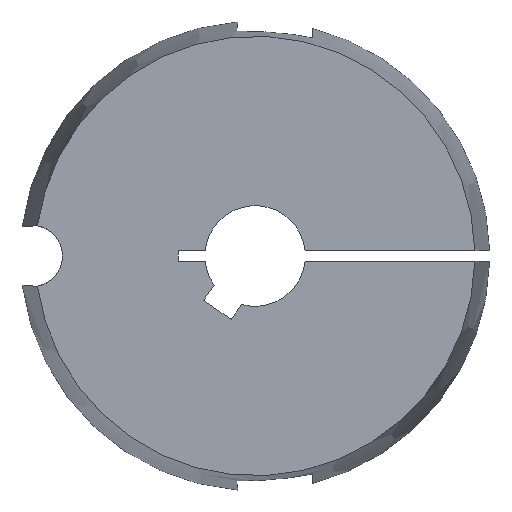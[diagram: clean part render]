
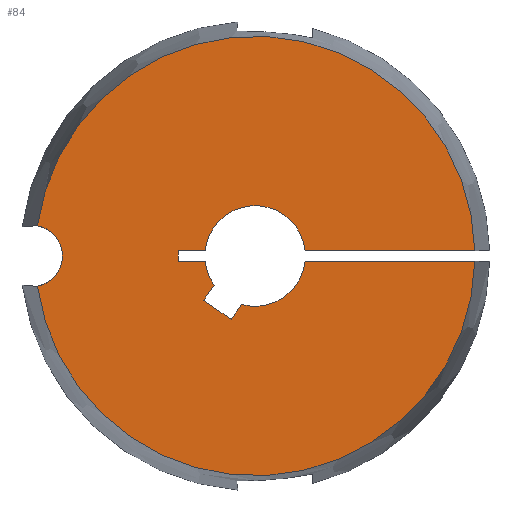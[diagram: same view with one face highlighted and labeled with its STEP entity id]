
A CAD part, left-side view. The second image highlights one B-rep face of the part: STEP entity #84.
In plain terms, the highlighted planar face has unit normal (-1, 0, 0).
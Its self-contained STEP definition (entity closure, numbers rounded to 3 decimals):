
#84 = ADVANCED_FACE( '', ( #114 ), #115, .F. );
#114 = FACE_OUTER_BOUND( '', #154, .T. );
#115 = PLANE( '', #155 );
#154 = EDGE_LOOP( '', ( #251, #252, #253, #254, #255, #256, #257, #258, #259, #260, #261, #262, #263, #264 ) );
#155 = AXIS2_PLACEMENT_3D( '', #265, #266, #267 );
#251 = ORIENTED_EDGE( '', *, *, #349, .T. );
#252 = ORIENTED_EDGE( '', *, *, #381, .F. );
#253 = ORIENTED_EDGE( '', *, *, #352, .T. );
#254 = ORIENTED_EDGE( '', *, *, #365, .T. );
#255 = ORIENTED_EDGE( '', *, *, #363, .T. );
#256 = ORIENTED_EDGE( '', *, *, #360, .T. );
#257 = ORIENTED_EDGE( '', *, *, #369, .T. );
#258 = ORIENTED_EDGE( '', *, *, #382, .T. );
#259 = ORIENTED_EDGE( '', *, *, #383, .T. );
#260 = ORIENTED_EDGE( '', *, *, #384, .T. );
#261 = ORIENTED_EDGE( '', *, *, #385, .T. );
#262 = ORIENTED_EDGE( '', *, *, #386, .T. );
#263 = ORIENTED_EDGE( '', *, *, #354, .T. );
#264 = ORIENTED_EDGE( '', *, *, #387, .F. );
#265 = CARTESIAN_POINT( '', ( -31.8, 0., 0. ) );
#266 = DIRECTION( '', ( 1., 0., 0. ) );
#267 = DIRECTION( '', ( 0., 0., -1. ) );
#349 = EDGE_CURVE( '', #402, #407, #409, .T. );
#352 = EDGE_CURVE( '', #415, #413, #416, .T. );
#354 = EDGE_CURVE( '', #418, #419, #420, .T. );
#360 = EDGE_CURVE( '', #431, #429, #432, .T. );
#363 = EDGE_CURVE( '', #436, #431, #437, .T. );
#365 = EDGE_CURVE( '', #413, #436, #439, .T. );
#369 = EDGE_CURVE( '', #429, #443, #445, .T. );
#381 = EDGE_CURVE( '', #415, #407, #465, .T. );
#382 = EDGE_CURVE( '', #443, #466, #467, .T. );
#383 = EDGE_CURVE( '', #466, #468, #469, .T. );
#384 = EDGE_CURVE( '', #468, #470, #471, .T. );
#385 = EDGE_CURVE( '', #470, #472, #473, .T. );
#386 = EDGE_CURVE( '', #472, #418, #474, .T. );
#387 = EDGE_CURVE( '', #402, #419, #475, .T. );
#402 = VERTEX_POINT( '', #521 );
#407 = VERTEX_POINT( '', #531 );
#409 = CIRCLE( '', #538, 4.6 );
#413 = VERTEX_POINT( '', #543 );
#415 = VERTEX_POINT( '', #546 );
#416 = LINE( '', #547, #548 );
#418 = VERTEX_POINT( '', #556 );
#419 = VERTEX_POINT( '', #557 );
#420 = LINE( '', #558, #559 );
#429 = VERTEX_POINT( '', #577 );
#431 = VERTEX_POINT( '', #580 );
#432 = LINE( '', #581, #582 );
#436 = VERTEX_POINT( '', #588 );
#437 = LINE( '', #589, #590 );
#439 = CIRCLE( '', #593, 7.5 );
#443 = VERTEX_POINT( '', #598 );
#445 = LINE( '', #601, #602 );
#465 = CIRCLE( '', #625, 32.776 );
#466 = VERTEX_POINT( '', #626 );
#467 = CIRCLE( '', #627, 7.5 );
#468 = VERTEX_POINT( '', #628 );
#469 = LINE( '', #629, #630 );
#470 = VERTEX_POINT( '', #631 );
#471 = LINE( '', #632, #633 );
#472 = VERTEX_POINT( '', #634 );
#473 = LINE( '', #635, #636 );
#474 = CIRCLE( '', #637, 7.5 );
#475 = CIRCLE( '', #638, 32.776 );
#521 = CARTESIAN_POINT( '', ( -31.8, 32.464, 4.516 ) );
#531 = CARTESIAN_POINT( '', ( -31.8, 32.464, -4.516 ) );
#538 = AXIS2_PLACEMENT_3D( '', #702, #703, #704 );
#543 = CARTESIAN_POINT( '', ( -31.8, -7.462, -0.75 ) );
#546 = CARTESIAN_POINT( '', ( -31.8, -32.768, -0.75 ) );
#547 = CARTESIAN_POINT( '', ( -31.8, -35., -0.75 ) );
#548 = VECTOR( '', #707, 1000. );
#556 = CARTESIAN_POINT( '', ( -31.8, -7.462, 0.75 ) );
#557 = CARTESIAN_POINT( '', ( -31.8, -32.768, 0.75 ) );
#558 = CARTESIAN_POINT( '', ( -31.8, 0., 0.75 ) );
#559 = VECTOR( '', #708, 1000. );
#577 = CARTESIAN_POINT( '', ( -31.8, 7.669, -6.594 ) );
#580 = CARTESIAN_POINT( '', ( -31.8, 3.573, -9.462 ) );
#581 = CARTESIAN_POINT( '', ( -31.8, 3.573, -9.462 ) );
#582 = VECTOR( '', #713, 1000. );
#588 = CARTESIAN_POINT( '', ( -31.8, 2.008, -7.226 ) );
#589 = CARTESIAN_POINT( '', ( -31.8, 2.008, -7.226 ) );
#590 = VECTOR( '', #716, 1000. );
#593 = AXIS2_PLACEMENT_3D( '', #718, #719, #720 );
#598 = CARTESIAN_POINT( '', ( -31.8, 6.104, -4.358 ) );
#601 = CARTESIAN_POINT( '', ( -31.8, 7.669, -6.594 ) );
#602 = VECTOR( '', #726, 1000. );
#625 = AXIS2_PLACEMENT_3D( '', #754, #755, #756 );
#626 = CARTESIAN_POINT( '', ( -31.8, 7.462, -0.75 ) );
#627 = AXIS2_PLACEMENT_3D( '', #757, #758, #759 );
#628 = CARTESIAN_POINT( '', ( -31.8, 11.5, -0.75 ) );
#629 = CARTESIAN_POINT( '', ( -31.8, 0., -0.75 ) );
#630 = VECTOR( '', #760, 1000. );
#631 = CARTESIAN_POINT( '', ( -31.8, 11.5, 0.75 ) );
#632 = CARTESIAN_POINT( '', ( -31.8, 11.5, -0.75 ) );
#633 = VECTOR( '', #761, 1000. );
#634 = CARTESIAN_POINT( '', ( -31.8, 7.462, 0.75 ) );
#635 = CARTESIAN_POINT( '', ( -31.8, 11.5, 0.75 ) );
#636 = VECTOR( '', #762, 1000. );
#637 = AXIS2_PLACEMENT_3D( '', #763, #764, #765 );
#638 = AXIS2_PLACEMENT_3D( '', #766, #767, #768 );
#702 = CARTESIAN_POINT( '', ( -31.8, 33.34, 0. ) );
#703 = DIRECTION( '', ( 1., 0., 0. ) );
#704 = DIRECTION( '', ( 0., 1., 0. ) );
#707 = DIRECTION( '', ( 0., 1., 0. ) );
#708 = DIRECTION( '', ( 0., -1., 0. ) );
#713 = DIRECTION( '', ( 0., 0.819, 0.574 ) );
#716 = DIRECTION( '', ( 0., 0.574, -0.819 ) );
#718 = CARTESIAN_POINT( '', ( -31.8, 0., 0. ) );
#719 = DIRECTION( '', ( 1., 0., 0. ) );
#720 = DIRECTION( '', ( 0., 0., -1. ) );
#726 = DIRECTION( '', ( 0., -0.574, 0.819 ) );
#754 = CARTESIAN_POINT( '', ( -31.8, 0., 0. ) );
#755 = DIRECTION( '', ( 1., 0., 0. ) );
#756 = DIRECTION( '', ( 0., 0., -1. ) );
#757 = CARTESIAN_POINT( '', ( -31.8, 0., 0. ) );
#758 = DIRECTION( '', ( 1., 0., 0. ) );
#759 = DIRECTION( '', ( 0., 0., -1. ) );
#760 = DIRECTION( '', ( 0., 1., 0. ) );
#761 = DIRECTION( '', ( 0., 0., 1. ) );
#762 = DIRECTION( '', ( 0., -1., 0. ) );
#763 = CARTESIAN_POINT( '', ( -31.8, 0., 0. ) );
#764 = DIRECTION( '', ( 1., 0., 0. ) );
#765 = DIRECTION( '', ( 0., 0., -1. ) );
#766 = CARTESIAN_POINT( '', ( -31.8, 0., 0. ) );
#767 = DIRECTION( '', ( 1., 0., 0. ) );
#768 = DIRECTION( '', ( 0., 0., -1. ) );
